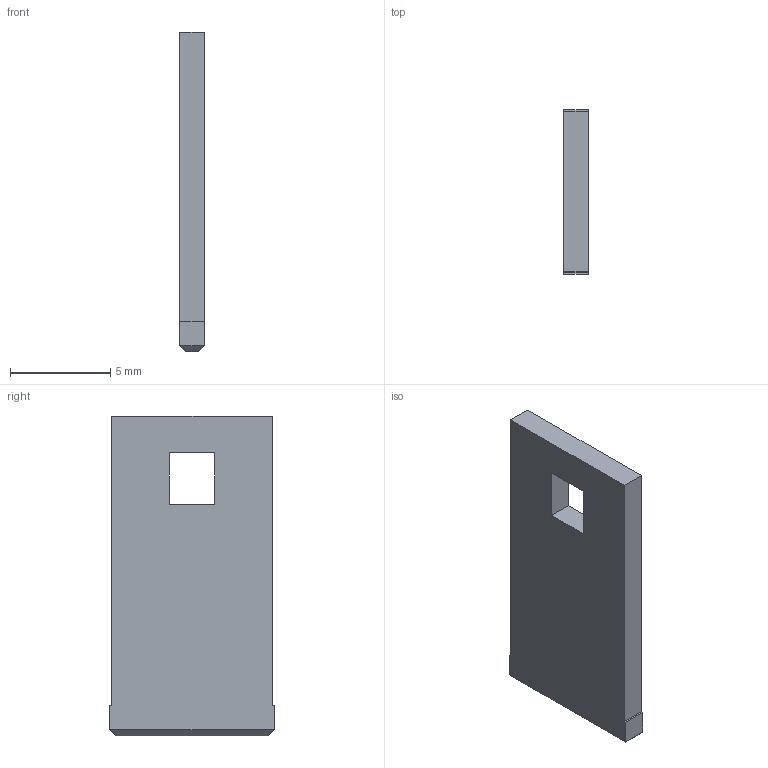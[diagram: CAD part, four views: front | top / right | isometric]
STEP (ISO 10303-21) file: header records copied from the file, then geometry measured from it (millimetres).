
FILE_DESCRIPTION(('Open CASCADE Model'),'2;1');
FILE_NAME('Open CASCADE Shape Model','2026-11-25T23:20:23',('Author'),( 'Open CASCADE'),'Open CASCADE STEP processor 7.9','build123d', 'Unknown');
FILE_SCHEMA(('AUTOMOTIVE_DESIGN { 1 0 10303 214 1 1 1 1 }'));
Length unit declared in the file: millimetre
Products named in the file (1): SOLID
Bounding box: 1.2 x 8.2 x 15.9 mm (x, y, z)
Volume: 145.2 mm3; surface area: 309.4 mm2
Topology: 1 solids, 1 shells, 18 faces, 44 edges, 28 vertices
Faces by surface type: plane 18
Entity records: 1082 total; most frequent: CARTESIAN_POINT 199, DIRECTION 150, LINE 112, VECTOR 112, ORIENTED_EDGE 88, PCURVE 88, DEFINITIONAL_REPRESENTATION 88, EDGE_CURVE 44
